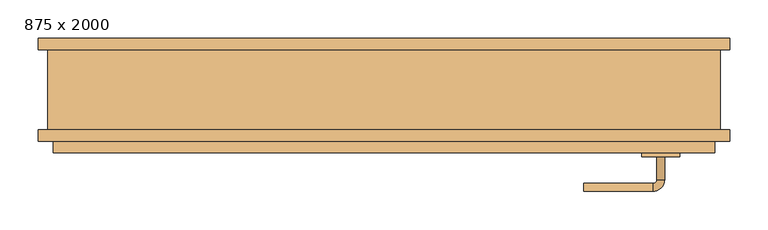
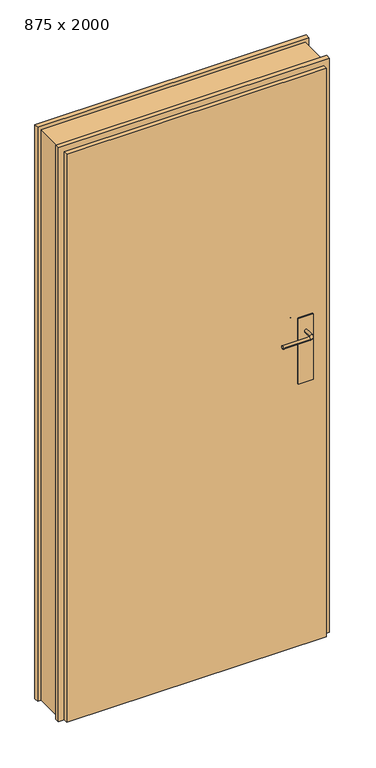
"""IFC4 building model written with IfcOpenShell, lengths in millimetres: door geometry, Door_Zeppelin-Rental-GmbH_Single-Leaf-Door : 875 x 2000."""

from ifc_helpers import new_model, si_unit, point, frame, origin, place, context, project, spatial, polyline, circle_curve, ellipse_curve, trimmed, outline, extrude, faceted_brep, source, transform, mapped, element, save
from ifc_brep_helpers import plane_surface, cylinder_surface, revolved_surface, advanced_brep


def door_875_x_2000_42ee14d7(model_context):
    return source(origin(), model_context, "Body", "SolidModel", [
        extrude(outline(polyline([(385.0, -36.5000092), (385.0, -41.5000092), (335.0, -41.5000092), (335.0, -36.5000092), (385.0, -36.5000092)])), frame((0.0, 0.0, 920.0), z_axis=(0.0, 0.0, 1.0), x_axis=(1.0, 0.0, 0.0)), (0.0, 0.0, 1.0), 230.0),
        advanced_brep(
        [(355.0, -36.5000092, 1100.0), (365.0, -36.5000092, 1100.0), (355.0, -6.5000092, 1100.0), (365.0, -6.5000092, 1100.0), (350.0, -1.5000092, 1100.0), (350.0, 8.4999908, 1100.0), (260.0007022, -1.5000092, 1100.0), (260.0007022, 8.4999908, 1100.0)],
        [
            (0, 1, circle_curve(frame((360.0, -36.5000092, 1100.0), z_axis=(0.0, -1.0, 0.0), x_axis=(1.0, 0.0, 0.0)), 5.0)),
            (1, 0, circle_curve(frame((360.0, -36.5000092, 1100.0), z_axis=(0.0, -1.0, 0.0), x_axis=(1.0, 0.0, 0.0)), 5.0)),
            (0, 2),
            (2, 3, circle_curve(frame((360.0, -6.5000092, 1100.0), z_axis=(0.0, -1.0, 0.0), x_axis=(1.0, 0.0, 0.0)), 5.0)),
            (3, 1),
            (3, 2, circle_curve(frame((360.0, -6.5000092, 1100.0), z_axis=(0.0, -1.0, 0.0), x_axis=(1.0, 0.0, 0.0)), 5.0)),
            (4, 5, circle_curve(frame((350.0, 3.4999908, 1100.0), z_axis=(1.0, 0.0, 0.0), x_axis=(0.0, 1.0, 0.0)), 5.0)),
            (5, 3, circle_curve(frame((350.0, -6.5000092, 1100.0), z_axis=(0.0, 0.0, -1.0), x_axis=(1.0, 0.0, 0.0)), 15.0)),
            (2, 4, circle_curve(frame((350.0, -6.5000092, 1100.0), z_axis=(0.0, 0.0, 1.0), x_axis=(1.0, 0.0, 0.0)), 5.0)),
            (5, 4, circle_curve(frame((350.0, 3.4999908, 1100.0), z_axis=(1.0, 0.0, 0.0), x_axis=(0.0, 1.0, 0.0)), 5.0)),
            (6, 7, circle_curve(frame((260.0007022, 3.4999908, 1100.0), z_axis=(-1.0, 0.0, 0.0), x_axis=(0.0, 1.0, 0.0)), 5.0)),
            (7, 6, circle_curve(frame((260.0007022, 3.4999908, 1100.0), z_axis=(-1.0, 0.0, 0.0), x_axis=(0.0, 1.0, 0.0)), 5.0)),
            (4, 6),
            (7, 5),
        ],
        [
            plane_surface(frame((360.0, -36.5000092, 1100.0), z_axis=(0.0, -1.0, 0.0), x_axis=(0.0, 0.0, 1.0))),
            cylinder_surface(frame((360.0, -36.5000092, 1100.0), z_axis=(0.0, -1.0, 0.0), x_axis=(1.0, 0.0, 0.0)), 5.0),
            revolved_surface(trimmed(ellipse_curve(frame((360.0, -6.5000092, 1100.0), z_axis=(0.0, 1.0, 0.0), x_axis=(1.0, 0.0, 0.0)), 5.0, 5.0), [point((365.0, -6.5000092, 1100.0))], [point((355.0, -6.5000092, 1100.0))], True, "CARTESIAN"), (350.0, -6.5000092, 1100.0), (0.0, 0.0, -1.0)),
            revolved_surface(trimmed(ellipse_curve(frame((360.0, -6.5000092, 1100.0), z_axis=(0.0, 1.0, 0.0), x_axis=(1.0, 0.0, 0.0)), 5.0, 5.0), [point((355.0, -6.5000092, 1100.0))], [point((365.0, -6.5000092, 1100.0))], True, "CARTESIAN"), (350.0, -6.5000092, 1100.0), (0.0, 0.0, -1.0)),
            plane_surface(frame((260.0007022, 3.4999908, 1100.0), z_axis=(-1.0, 0.0, 0.0), x_axis=(0.0, 0.0, 1.0))),
            cylinder_surface(frame((350.0, 3.4999908, 1100.0), z_axis=(1.0, 0.0, 0.0), x_axis=(0.0, 1.0, 0.0)), 5.0),
        ],
        [
            (0, [[1, 2]]),
            (1, [[3, 4, 5, -1]]),
            (1, [[-5, 6, -3, -2]]),
            (2, [[7, 8, -4, 9]]),
            (3, [[10, -9, -6, -8]]),
            (4, [[11, 12]]),
            (5, [[13, -12, 14, -7]]),
            (5, [[-14, -11, -13, -10]]),
        ],
    ),
        extrude(outline(polyline([(335.0, -86.5000092), (335.0, -81.5000092), (385.0, -81.5000092), (385.0, -86.5000092), (335.0, -86.5000092)])), frame((0.0, 0.0, 920.0), z_axis=(0.0, 0.0, 1.0), x_axis=(1.0, 0.0, 0.0)), (0.0, 0.0, 1.0), 230.0),
        advanced_brep(
        [(365.0, -86.5000092, 1100.0), (355.0, -86.5000092, 1100.0), (355.0, -116.5000092, 1100.0), (365.0, -116.5000092, 1100.0), (350.0, -121.5000092, 1100.0), (350.0, -131.5000092, 1100.0), (260.0007022, -131.5000092, 1100.0), (260.0007022, -121.5000092, 1100.0)],
        [
            (0, 1, circle_curve(frame((360.0, -86.5000092, 1100.0), z_axis=(0.0, 1.0, 0.0), x_axis=(-1.0, 0.0, 0.0)), 5.0)),
            (1, 0, circle_curve(frame((360.0, -86.5000092, 1100.0), z_axis=(0.0, 1.0, 0.0), x_axis=(-1.0, 0.0, 0.0)), 5.0)),
            (1, 2),
            (2, 3, circle_curve(frame((360.0, -116.5000092, 1100.0), z_axis=(0.0, 1.0, 0.0), x_axis=(-1.0, 0.0, 0.0)), 5.0)),
            (3, 0),
            (3, 2, circle_curve(frame((360.0, -116.5000092, 1100.0), z_axis=(0.0, 1.0, 0.0), x_axis=(-1.0, 0.0, 0.0)), 5.0)),
            (4, 5, circle_curve(frame((350.0, -126.5000092, 1100.0), z_axis=(1.0, 0.0, 0.0), x_axis=(0.0, 1.0, 0.0)), 5.0)),
            (5, 3, circle_curve(frame((350.0, -116.5000092, 1100.0), z_axis=(0.0, 0.0, 1.0), x_axis=(1.0, 0.0, 0.0)), 15.0)),
            (2, 4, circle_curve(frame((350.0, -116.5000092, 1100.0), z_axis=(0.0, 0.0, -1.0), x_axis=(1.0, 0.0, 0.0)), 5.0)),
            (5, 4, circle_curve(frame((350.0, -126.5000092, 1100.0), z_axis=(1.0, 0.0, 0.0), x_axis=(0.0, 1.0, 0.0)), 5.0)),
            (6, 7, circle_curve(frame((260.0007022, -126.5000092, 1100.0), z_axis=(-1.0, 0.0, 0.0), x_axis=(0.0, 1.0, 0.0)), 5.0)),
            (7, 6, circle_curve(frame((260.0007022, -126.5000092, 1100.0), z_axis=(-1.0, 0.0, 0.0), x_axis=(0.0, 1.0, 0.0)), 5.0)),
            (4, 7),
            (6, 5),
        ],
        [
            plane_surface(frame((360.0, -86.5000092, 1100.0), z_axis=(0.0, 1.0, 0.0), x_axis=(0.0, 0.0, 1.0))),
            cylinder_surface(frame((360.0, -86.5000092, 1100.0), z_axis=(0.0, 1.0, 0.0), x_axis=(-1.0, 0.0, 0.0)), 5.0),
            revolved_surface(trimmed(ellipse_curve(frame((360.0, -116.5000092, 1100.0), z_axis=(0.0, -1.0, 0.0), x_axis=(-1.0, 0.0, 0.0)), 5.0, 5.0), [point((365.0, -116.5000092, 1100.0))], [point((355.0, -116.5000092, 1100.0))], True, "CARTESIAN"), (350.0, -116.5000092, 1100.0), (0.0, 0.0, 1.0)),
            revolved_surface(trimmed(ellipse_curve(frame((360.0, -116.5000092, 1100.0), z_axis=(0.0, -1.0, 0.0), x_axis=(-1.0, 0.0, 0.0)), 5.0, 5.0), [point((355.0, -116.5000092, 1100.0))], [point((365.0, -116.5000092, 1100.0))], True, "CARTESIAN"), (350.0, -116.5000092, 1100.0), (0.0, 0.0, 1.0)),
            plane_surface(frame((260.0007022, -126.5000092, 1100.0), z_axis=(-1.0, 0.0, 0.0), x_axis=(0.0, 0.0, 1.0))),
            cylinder_surface(frame((350.0, -126.5000092, 1100.0), z_axis=(1.0, 0.0, 0.0), x_axis=(0.0, 1.0, 0.0)), 5.0),
        ],
        [
            (0, [[1, 2]]),
            (1, [[3, 4, 5, -2]]),
            (1, [[-5, 6, -3, -1]]),
            (2, [[7, 8, -4, 9]]),
            (3, [[10, -9, -6, -8]]),
            (4, [[11, 12]]),
            (5, [[13, -11, 14, -7]]),
            (5, [[-14, -12, -13, -10]]),
        ],
    ),
        faceted_brep([(-417.0, -41.5000092, 0.0), (417.0, -41.5000092, 0.0), (417.0, -67.0000092, 0.0), (430.0, -67.0000092, 0.0), (430.0, -81.5000092, 0.0), (-430.0, -81.5000092, 0.0), (-430.0, -67.0000092, 0.0), (-417.0, -67.0000092, 0.0), (-417.0, -41.5000092, 1979.0), (417.0, -41.5000092, 1979.0), (417.0, -67.0000092, 1979.0), (-417.0, -67.0000092, 1979.0), (-430.0, -67.0000092, 1992.0), (430.0, -67.0000092, 1992.0), (430.0, -81.5000092, 1992.0), (-430.0, -81.5000092, 1992.0)], [[[0, 1, 2, 3, 4, 5, 6, 7]], [[0, 8, 9, 1]], [[1, 9, 10, 2]], [[2, 10, 11, 7, 6, 12, 13, 3]], [[13, 14, 4, 3]], [[4, 14, 15, 5]], [[5, 15, 12, 6]], [[7, 11, 8, 0]], [[12, 15, 14, 13]], [[10, 9, 8, 11]]]),
        faceted_brep([(419.5, -67.0000092, 0.0), (419.5, -39.0000092, 0.0), (404.5, -39.0000092, 0.0), (404.5, 2.9999908, 0.0), (419.5, 2.9999908, 0.0), (419.5, 67.0, 0.0), (449.5, 67.0, 0.0), (449.5, 52.0, 0.0), (437.5, 52.0, 0.0), (437.5, -52.0, 0.0), (449.5, -52.0, 0.0), (449.5, -67.0000092, 0.0), (-419.5, -67.0000092, 0.0), (-449.5, -67.0000092, 0.0), (-449.5, -52.0, 0.0), (-437.5, -52.0, 0.0), (-437.5, 52.0, 0.0), (-449.5, 52.0, 0.0), (-449.5, 67.0, 0.0), (-419.5, 67.0, 0.0), (-419.5, 2.9999908, 0.0), (-404.5, 2.9999908, 0.0), (-404.5, -39.0000092, 0.0), (-419.5, -39.0000092, 0.0), (449.5, -67.0000092, 2012.0), (-449.5, -67.0000092, 2012.0), (-419.5, -67.0000092, 1982.0), (419.5, -67.0000092, 1982.0), (449.5, -52.0, 2012.0), (437.5, -52.0, 2000.0), (-437.5, -52.0, 2000.0), (-449.5, -52.0, 2012.0), (437.5, 52.0, 2000.0), (449.5, 52.0, 2012.0), (-449.5, 52.0, 2012.0), (-437.5, 52.0, 2000.0), (449.5, 67.0, 2012.0), (419.5, 67.0, 1982.0), (-419.5, 67.0, 1982.0), (-449.5, 67.0, 2012.0), (419.5, -39.0000092, 1982.0), (-419.5, -39.0000092, 1982.0), (419.5, 2.9999908, 1982.0), (404.5, 2.9999908, 1967.0), (-404.5, 2.9999908, 1967.0), (-419.5, 2.9999908, 1982.0), (404.5, -39.0000092, 1967.0), (-404.5, -39.0000092, 1967.0)], [[[0, 1, 2, 3, 4, 5, 6, 7, 8, 9, 10, 11]], [[12, 13, 14, 15, 16, 17, 18, 19, 20, 21, 22, 23]], [[11, 24, 25, 13, 12, 26, 27, 0]], [[10, 28, 24, 11]], [[9, 29, 30, 15, 14, 31, 28, 10]], [[8, 32, 29, 9]], [[7, 33, 34, 17, 16, 35, 32, 8]], [[6, 36, 33, 7]], [[5, 37, 38, 19, 18, 39, 36, 6]], [[0, 27, 40, 1]], [[28, 31, 25, 24]], [[32, 35, 30, 29]], [[36, 39, 34, 33]], [[27, 26, 41, 40]], [[31, 14, 13, 25]], [[35, 16, 15, 30]], [[39, 18, 17, 34]], [[26, 12, 23, 41]], [[4, 42, 37, 5]], [[3, 43, 44, 21, 20, 45, 42, 4]], [[2, 46, 43, 3]], [[1, 40, 41, 23, 22, 47, 46, 2]], [[42, 45, 38, 37]], [[46, 47, 44, 43]], [[45, 20, 19, 38]], [[47, 22, 21, 44]]]),
    ])


if __name__ == "__main__":
    model = new_model("IFC4")
    model_context = context("Model", 3, world=origin())
    ifc_project = project(units=[si_unit("LENGTHUNIT", "METRE", prefix="MILLI")], contexts=[model_context])
    site = spatial("IfcSite", under=ifc_project)
    building = spatial("IfcBuilding", under=site)
    placement = place(None, origin())
    door_875_x_2000_shape = door_875_x_2000_42ee14d7(model_context)
    element("IfcDoor", 1, ObjectType="Door_Zeppelin-Rental-GmbH_Single-Leaf-Door : 875 x 2000", at=placement, inside=building, context=model_context, shape_type="MappedRepresentation", body=[
        mapped(door_875_x_2000_shape, transform((0.0, 0.0, 0.0), x_axis=(1.0, 0.0, 0.0), y_axis=(0.0, 1.0, 0.0), z_axis=(0.0, 0.0, 1.0))),
    ])
    save(model, "model.ifc")
